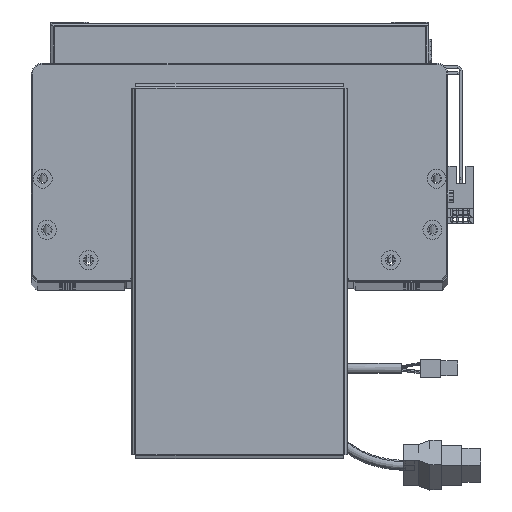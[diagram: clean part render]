
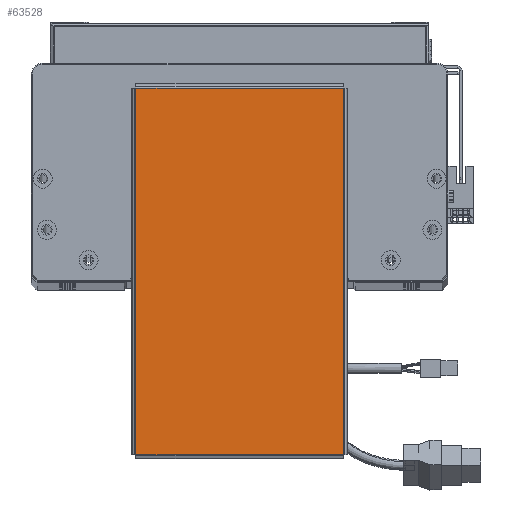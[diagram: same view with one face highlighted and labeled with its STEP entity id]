
A CAD part, top view. The second image highlights one B-rep face of the part: STEP entity #63528.
In plain terms, the highlighted planar face has unit normal (0, 0, 1).
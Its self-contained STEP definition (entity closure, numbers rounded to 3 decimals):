
#1472 = VECTOR ( 'NONE', #70644, 1000. ) ;
#1771 = CARTESIAN_POINT ( 'NONE',  ( -96.763, 54.793, 0. ) ) ;
#3135 = VECTOR ( 'NONE', #13206, 1000. ) ;
#3877 = CARTESIAN_POINT ( 'NONE',  ( 96.793, 54.763, 0. ) ) ;
#13206 = DIRECTION ( 'NONE',  ( 0., -1., 0. ) ) ;
#14647 = CARTESIAN_POINT ( 'NONE',  ( 96.763, 54.763, 0. ) ) ;
#17870 = CARTESIAN_POINT ( 'NONE',  ( -96.793, -54.763, 0. ) ) ;
#20328 = DIRECTION ( 'NONE',  ( 0., 0., 1. ) ) ;
#21118 = EDGE_CURVE ( 'NONE', #56473, #22052, #48351, .T. ) ;
#22052 = VERTEX_POINT ( 'NONE', #69623 ) ;
#23937 = DIRECTION ( 'NONE',  ( 1., 0., 0. ) ) ;
#24011 = EDGE_LOOP ( 'NONE', ( #43065, #56033, #49025, #35134 ) ) ;
#29453 = LINE ( 'NONE', #49839, #66028 ) ;
#31007 = CARTESIAN_POINT ( 'NONE',  ( 0., 0., 0. ) ) ;
#35134 = ORIENTED_EDGE ( 'NONE', *, *, #53975, .T. ) ;
#35859 = EDGE_CURVE ( 'NONE', #22052, #64716, #29453, .T. ) ;
#35917 = DIRECTION ( 'NONE',  ( 1., 0., 0. ) ) ;
#36410 = AXIS2_PLACEMENT_3D ( 'NONE', #31007, #20328, #35917 ) ;
#40358 = CARTESIAN_POINT ( 'NONE',  ( -96.763, -54.763, 0. ) ) ;
#42255 = LINE ( 'NONE', #3877, #1472 ) ;
#43065 = ORIENTED_EDGE ( 'NONE', *, *, #21118, .T. ) ;
#46909 = PLANE ( 'NONE',  #36410 ) ;
#48351 = LINE ( 'NONE', #17870, #62253 ) ;
#49025 = ORIENTED_EDGE ( 'NONE', *, *, #63757, .T. ) ;
#49839 = CARTESIAN_POINT ( 'NONE',  ( 96.763, -54.793, 0. ) ) ;
#53975 = EDGE_CURVE ( 'NONE', #60221, #56473, #58740, .T. ) ;
#55260 = DIRECTION ( 'NONE',  ( 0., 1., 0. ) ) ;
#56033 = ORIENTED_EDGE ( 'NONE', *, *, #35859, .T. ) ;
#56473 = VERTEX_POINT ( 'NONE', #40358 ) ;
#58740 = LINE ( 'NONE', #1771, #3135 ) ;
#60221 = VERTEX_POINT ( 'NONE', #68912 ) ;
#62253 = VECTOR ( 'NONE', #23937, 1000. ) ;
#63528 = ADVANCED_FACE ( 'NONE', ( #70052 ), #46909, .T. ) ;
#63757 = EDGE_CURVE ( 'NONE', #64716, #60221, #42255, .T. ) ;
#64716 = VERTEX_POINT ( 'NONE', #14647 ) ;
#66028 = VECTOR ( 'NONE', #55260, 1000. ) ;
#68912 = CARTESIAN_POINT ( 'NONE',  ( -96.763, 54.763, 0. ) ) ;
#69623 = CARTESIAN_POINT ( 'NONE',  ( 96.763, -54.763, 0. ) ) ;
#70052 = FACE_OUTER_BOUND ( 'NONE', #24011, .T. ) ;
#70644 = DIRECTION ( 'NONE',  ( -1., 0., 0. ) ) ;
